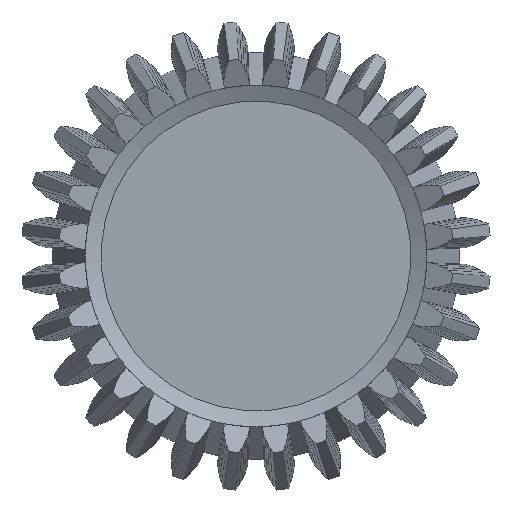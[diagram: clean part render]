
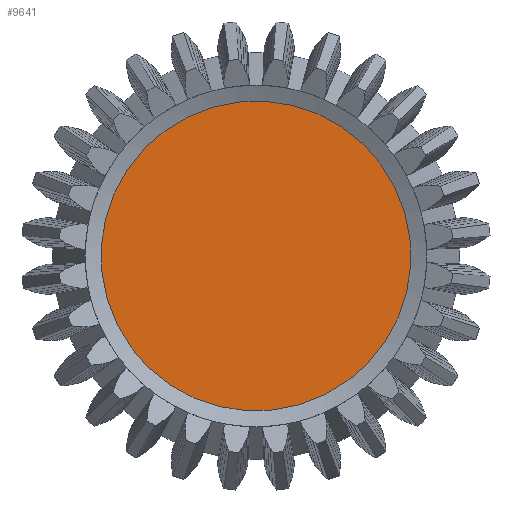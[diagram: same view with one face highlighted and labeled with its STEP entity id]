
A CAD part, front view. The second image highlights one B-rep face of the part: STEP entity #9641.
In plain terms, the highlighted planar face has unit normal (0, -1, 0).
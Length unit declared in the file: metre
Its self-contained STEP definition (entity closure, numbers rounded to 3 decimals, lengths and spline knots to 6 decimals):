
#68=PLANE('',#10270);
#600=CIRCLE('',#10271,0.009824);
#822=ORIENTED_EDGE('',*,*,#3738,.F.);
#3738=EDGE_CURVE('',#5170,#5170,#600,.T.);
#5170=VERTEX_POINT('',#13619);
#8591=EDGE_LOOP('',(#822));
#9101=FACE_BOUND('',#8591,.T.);
#9641=ADVANCED_FACE('',(#9101),#68,.T.);
#10270=AXIS2_PLACEMENT_3D('',#13617,#11083,#11084);
#10271=AXIS2_PLACEMENT_3D('',#13618,#11085,#11086);
#11083=DIRECTION('',(0.,-1.,0.));
#11084=DIRECTION('',(0.994,0.,0.112));
#11085=DIRECTION('',(0.,1.,0.));
#11086=DIRECTION('',(-0.994,0.,-0.112));
#13617=CARTESIAN_POINT('',(0.004881,0.024498,-0.033832));
#13618=CARTESIAN_POINT('',(0.,0.024498,-0.034382));
#13619=CARTESIAN_POINT('',(-0.009763,0.024498,-0.035482));
